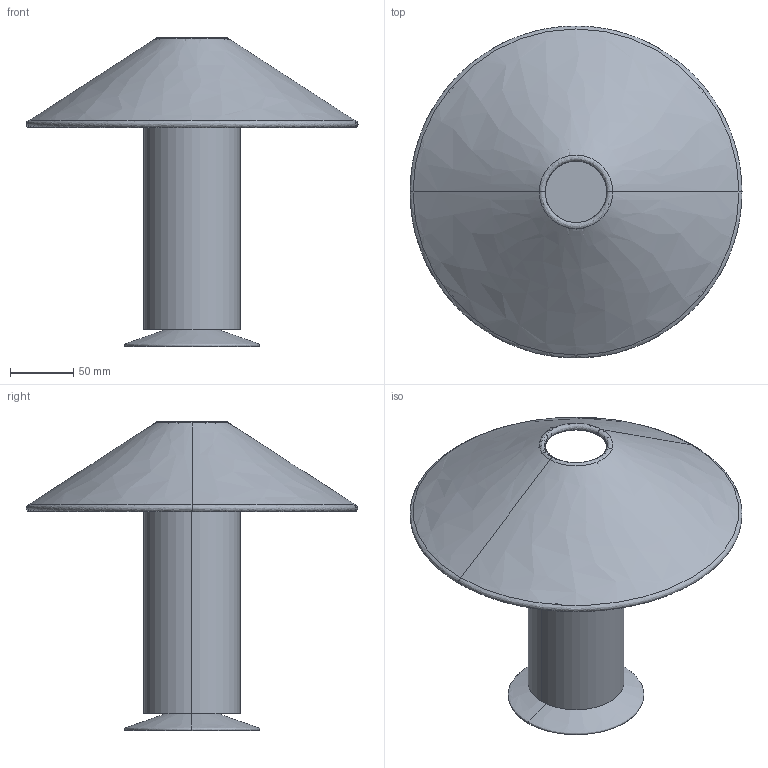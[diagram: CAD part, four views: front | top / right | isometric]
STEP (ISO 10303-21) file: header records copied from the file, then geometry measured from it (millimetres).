
FILE_DESCRIPTION(/* description */ (''),/* implementation_level */ '2;1');
FILE_NAME(/* name */ 'ILKW_FLAMINGO26_Table_3D',/* time_stamp */ '2026-08-28T17:17:48+09:00',/* author */ (''),/* organization */ (''),/* preprocessor_version */ 'ST-DEVELOPER v19.2',/* originating_system */ 'Rhino 8.21',/* authorisation */ '');
FILE_SCHEMA (('CONFIG_CONTROL_DESIGN'));
Length unit declared in the file: millimetre
Products named in the file (1): Document
Bounding box: 261.99 x 261.75 x 243.86 mm (x, y, z)
Volume: 926258 mm3; surface area: 157392.5 mm2
Topology: 1 solids, 4 shells, 16 faces, 36 edges, 24 vertices
Faces by surface type: bspline 10, plane 4, cylinder 2
Entity records: 1304 total; most frequent: CARTESIAN_POINT 889, ORIENTED_EDGE 60, DIRECTION 60, EDGE_CURVE 36, AXIS2_PLACEMENT_3D 33, TRIMMED_CURVE 24, CIRCLE 24, VERTEX_POINT 24
